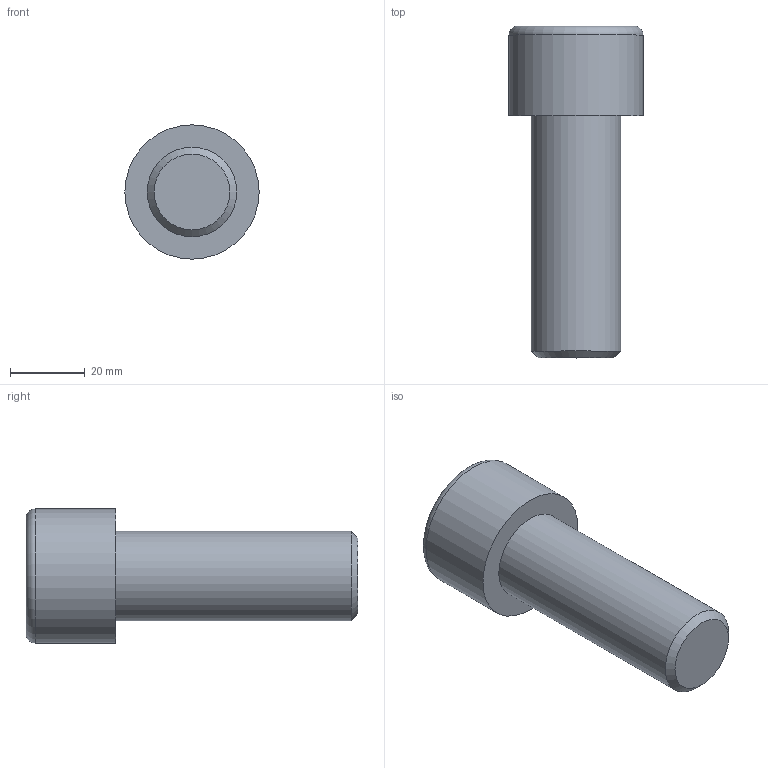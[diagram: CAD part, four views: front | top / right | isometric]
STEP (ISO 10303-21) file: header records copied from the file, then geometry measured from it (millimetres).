
FILE_DESCRIPTION(/* description */ (''),/* implementation_level */ '2;1');
FILE_NAME(/* name */ 'C:\Users\D\Documents\Inventor\各種小物\JIS\JIS B 1176 六角穴付きボルト\M24x65.stp',/* time_stamp */ '2022-05-09T18:59:56+09:00',/* author */ ('D'),/* organization */ (''),/* preprocessor_version */ 'ST-DEVELOPER v18',/* originating_system */ 'Autodesk Inventor 2020',/* authorisation */ '');
FILE_SCHEMA (('AUTOMOTIVE_DESIGN { 1 0 10303 214 3 1 1 }'));
Length unit declared in the file: millimetre
Products named in the file (1): M1.6x2.5
Bounding box: 36 x 89 x 36 mm (x, y, z)
Volume: 49049.8 mm3; surface area: 10321.1 mm2
Topology: 1 solids, 1 shells, 14 faces, 33 edges, 22 vertices
Faces by surface type: plane 9, cone 2, cylinder 2, torus 1
Full cylindrical faces by diameter (mm): 24 x1, 36 x1
Entity records: 435 total; most frequent: CARTESIAN_POINT 83, ORIENTED_EDGE 64, DIRECTION 64, EDGE_CURVE 32, AXIS2_PLACEMENT_3D 24, VERTEX_POINT 22, EDGE_LOOP 16, LINE 16
